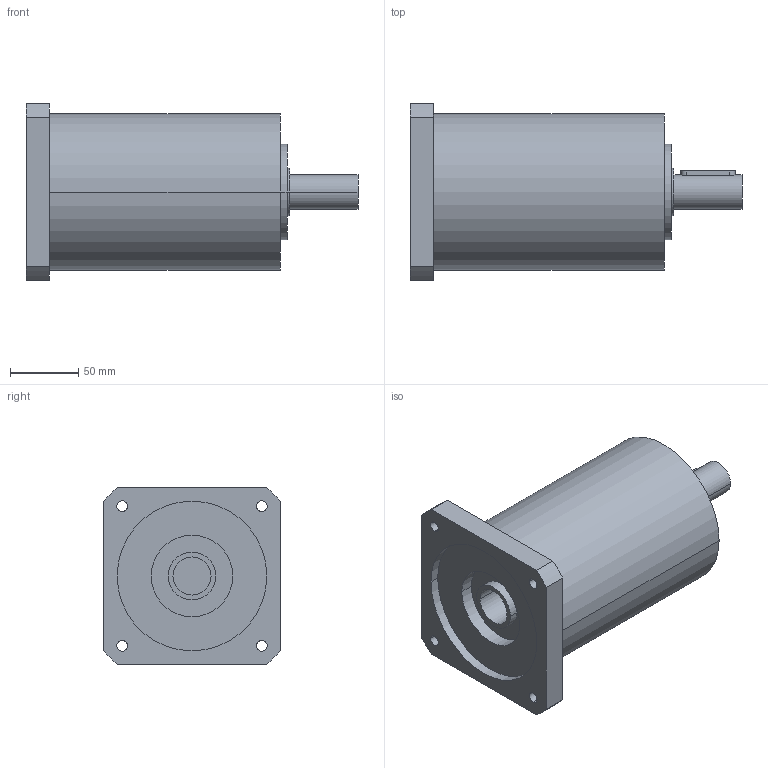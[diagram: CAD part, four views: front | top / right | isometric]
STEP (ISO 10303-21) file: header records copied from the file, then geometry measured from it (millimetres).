
FILE_DESCRIPTION(('CoCreate Modeling STEP Export'),'2;1');
FILE_NAME('GPR125_ig-9-12-16-20-28-35_25_B14_28_P12.stp','2014-08-26T14:11:40',(''),(''),'CoCreate Modeling STEP processor for AP214 (Solid Model)','CoCreate Modeling 16.00C 25-Feb-2009 (C) Parametric Technology GmbH','');
FILE_SCHEMA(('AUTOMOTIVE_DESIGN { 1 0 10303 214 1 1 1 1 }'));
Length unit declared in the file: millimetre
Products named in the file (2): GPR125_ig-9-12-16-20-28-35_25_B14_28_P12
Assembly tree (1 placements, depth 2):
  GPR125_ig-9-12-16-20-28-35_25_B14_28_P12
    GPR125_ig-9-12-16-20-28-35_25_B14_28_P12
Bounding box: 244 x 130 x 130 mm (x, y, z)
Volume: 1965256 mm3; surface area: 122920.3 mm2
Topology: 1 solids, 1 shells, 65 faces, 180 edges, 128 vertices
Faces by surface type: cylinder 40, plane 21, cone 4
Entity records: 1853 total; most frequent: ORIENTED_EDGE 356, CARTESIAN_POINT 351, DIRECTION 248, EDGE_CURVE 178, VERTEX_POINT 128, AXIS2_PLACEMENT_3D 93, EDGE_LOOP 86, FACE_OUTER_BOUND 65
